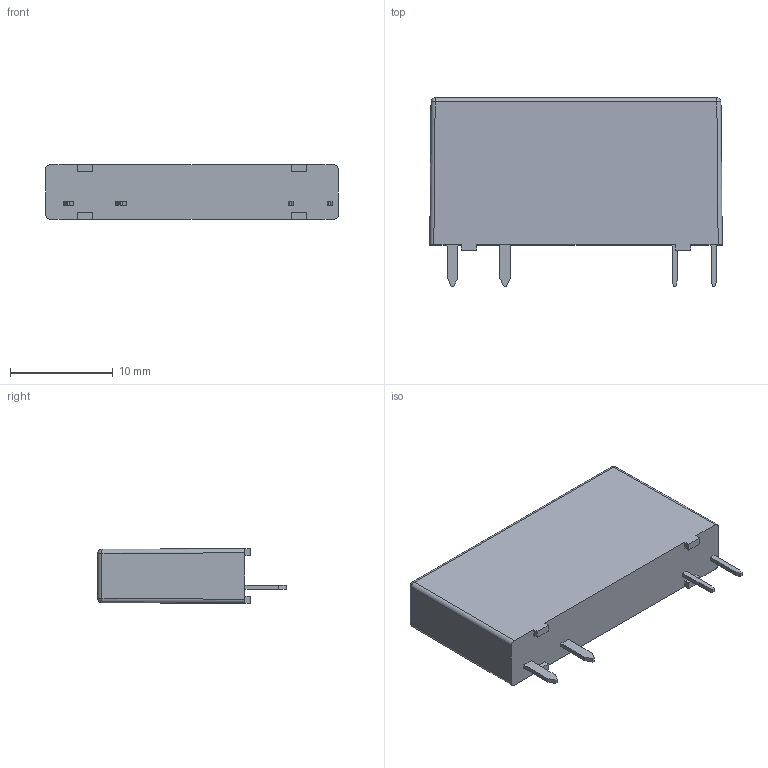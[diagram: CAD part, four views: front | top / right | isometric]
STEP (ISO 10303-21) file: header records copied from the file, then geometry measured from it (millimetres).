
FILE_DESCRIPTION(/* description */ (''),/* implementation_level */ '2;1');
FILE_NAME(/* name */ 'C:\Vault_local\Designs\Stock\3D pour clients\2D3D 600\2D3D 667 A.stp',/* time_stamp */ '2021-11-25T15:56:15+01:00',/* author */ ('fbros'),/* organization */ (''),/* preprocessor_version */ 'ST-DEVELOPER v17',/* originating_system */ 'Autodesk Inventor 2018',/* authorisation */ '');
FILE_SCHEMA (('AUTOMOTIVE_DESIGN { 1 0 10303 214 3 1 1 }'));
Length unit declared in the file: millimetre
Products named in the file (1): SLA-SLD
Bounding box: 28.45 x 18.3 x 5.3 mm (x, y, z)
Volume: 2131.6 mm3; surface area: 1280.2 mm2
Topology: 1 solids, 1 shells, 62 faces, 156 edges, 100 vertices
Faces by surface type: plane 50, cylinder 8, sphere 4
Entity records: 1900 total; most frequent: CARTESIAN_POINT 319, ORIENTED_EDGE 312, DIRECTION 298, EDGE_CURVE 156, LINE 140, VECTOR 140, VERTEX_POINT 100, AXIS2_PLACEMENT_3D 79
